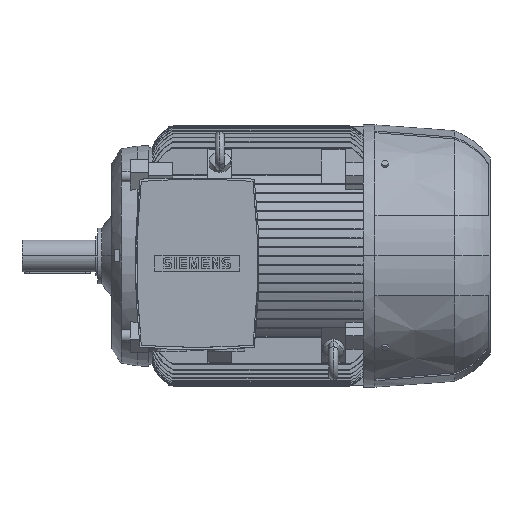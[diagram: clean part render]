
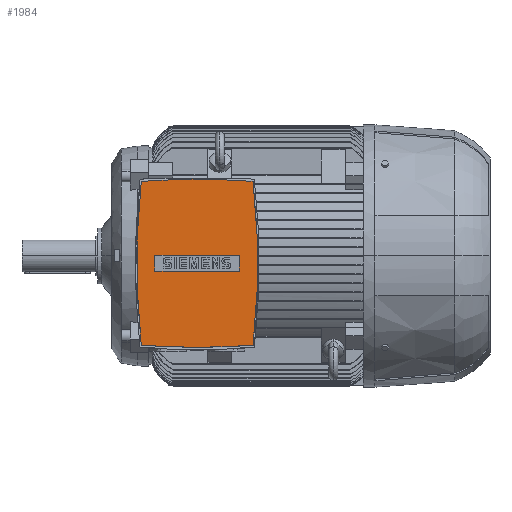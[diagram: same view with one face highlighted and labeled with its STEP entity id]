
A CAD part, top view. The second image highlights one B-rep face of the part: STEP entity #1984.
In plain terms, the highlighted planar face has unit normal (0, 0, 1).
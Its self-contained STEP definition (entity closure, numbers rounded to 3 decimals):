
#1984=ADVANCED_FACE('',(#5178,#5179),#5180,.T.);
#5178=FACE_BOUND('',#9624,.T.);
#5179=FACE_OUTER_BOUND('',#9625,.T.);
#5180=PLANE('',#9626);
#9624=EDGE_LOOP('',(#15714,#15715,#15716,#15717));
#9625=EDGE_LOOP('',(#15718,#15719,#15720,#15721,#15722,#15723));
#9626=AXIS2_PLACEMENT_3D('',#15724,#15725,#15726);
#15714=ORIENTED_EDGE('',*,*,#28271,.T.);
#15715=ORIENTED_EDGE('',*,*,#28268,.T.);
#15716=ORIENTED_EDGE('',*,*,#28265,.T.);
#15717=ORIENTED_EDGE('',*,*,#28262,.T.);
#15718=ORIENTED_EDGE('',*,*,#28627,.T.);
#15719=ORIENTED_EDGE('',*,*,#28628,.T.);
#15720=ORIENTED_EDGE('',*,*,#27789,.T.);
#15721=ORIENTED_EDGE('',*,*,#28629,.T.);
#15722=ORIENTED_EDGE('',*,*,#27782,.T.);
#15723=ORIENTED_EDGE('',*,*,#28630,.T.);
#15724=CARTESIAN_POINT('',(92.0,-14.5,410.0));
#15725=DIRECTION('',(0.0,0.0,1.0));
#15726=DIRECTION('',(0.0,-1.0,0.0));
#27782=EDGE_CURVE('',#33744,#33741,#33745,.T.);
#27789=EDGE_CURVE('',#33751,#33755,#33757,.T.);
#28262=EDGE_CURVE('',#34495,#34493,#34496,.T.);
#28265=EDGE_CURVE('',#34499,#34495,#34500,.T.);
#28268=EDGE_CURVE('',#34503,#34499,#34504,.T.);
#28271=EDGE_CURVE('',#34493,#34503,#34507,.T.);
#28627=EDGE_CURVE('',#35071,#35072,#35073,.T.);
#28628=EDGE_CURVE('',#35072,#33751,#35074,.T.);
#28629=EDGE_CURVE('',#33755,#33744,#35075,.T.);
#28630=EDGE_CURVE('',#33741,#35071,#35076,.T.);
#33741=VERTEX_POINT('',#44101);
#33744=VERTEX_POINT('',#44105);
#33745=CIRCLE('',#44106,1439.94);
#33751=VERTEX_POINT('',#44113);
#33755=VERTEX_POINT('',#44118);
#33757=CIRCLE('',#44121,1439.94);
#34493=VERTEX_POINT('',#45606);
#34495=VERTEX_POINT('',#45609);
#34496=LINE('',#45610,#45611);
#34499=VERTEX_POINT('',#45615);
#34500=LINE('',#45616,#45617);
#34503=VERTEX_POINT('',#45621);
#34504=LINE('',#45622,#45623);
#34507=LINE('',#45627,#45628);
#35071=VERTEX_POINT('',#46672);
#35072=VERTEX_POINT('',#46673);
#35073=CIRCLE('',#46674,1403.6);
#35074=CIRCLE('',#46675,1439.94);
#35075=CIRCLE('',#46676,1403.6);
#35076=CIRCLE('',#46677,1439.94);
#44101=CARTESIAN_POINT('',(92.,144.5,410.0));
#44105=CARTESIAN_POINT('',(197.904,140.6,410.0));
#44106=AXIS2_PLACEMENT_3D('',#70018,#70019,#70020);
#44113=CARTESIAN_POINT('',(92.,-173.5,410.0));
#44118=CARTESIAN_POINT('',(197.904,-169.6,410.0));
#44121=AXIS2_PLACEMENT_3D('',#70030,#70031,#70032);
#45606=CARTESIAN_POINT('',(172.0,-29.5,410.0));
#45609=CARTESIAN_POINT('',(172.0,0.5,410.0));
#45610=CARTESIAN_POINT('',(172.0,-14.5,410.0));
#45611=VECTOR('',#70503,1.0);
#45615=CARTESIAN_POINT('',(12.0,0.5,410.0));
#45616=CARTESIAN_POINT('',(92.0,0.5,410.0));
#45617=VECTOR('',#70505,1.0);
#45621=CARTESIAN_POINT('',(12.0,-29.5,410.0));
#45622=CARTESIAN_POINT('',(12.0,-14.5,410.0));
#45623=VECTOR('',#70507,1.0);
#45627=CARTESIAN_POINT('',(92.0,-29.5,410.0));
#45628=VECTOR('',#70509,1.0);
#46672=CARTESIAN_POINT('',(-13.904,140.6,410.0));
#46673=CARTESIAN_POINT('',(-13.904,-169.6,410.0));
#46674=AXIS2_PLACEMENT_3D('',#70913,#70914,#70915);
#46675=AXIS2_PLACEMENT_3D('',#70916,#70917,#70918);
#46676=AXIS2_PLACEMENT_3D('',#70919,#70920,#70921);
#46677=AXIS2_PLACEMENT_3D('',#70922,#70923,#70924);
#70018=CARTESIAN_POINT('',(92.0,-1295.44,410.0));
#70019=DIRECTION('',(0.0,-0.0,1.0));
#70020=DIRECTION('',(0.0,1.0,0.0));
#70030=CARTESIAN_POINT('',(92.0,1266.44,410.0));
#70031=DIRECTION('',(0.0,-0.0,1.0));
#70032=DIRECTION('',(0.0,1.0,0.0));
#70503=DIRECTION('',(0.0,-1.0,0.0));
#70505=DIRECTION('',(1.0,0.0,-0.0));
#70507=DIRECTION('',(0.0,1.0,0.0));
#70509=DIRECTION('',(-1.0,0.0,0.0));
#70913=CARTESIAN_POINT('',(1381.1,-14.5,410.0));
#70914=DIRECTION('',(0.0,-0.0,1.0));
#70915=DIRECTION('',(0.0,1.0,0.0));
#70916=CARTESIAN_POINT('',(92.0,1266.44,410.0));
#70917=DIRECTION('',(0.0,-0.0,1.0));
#70918=DIRECTION('',(0.0,1.0,0.0));
#70919=CARTESIAN_POINT('',(-1197.1,-14.5,410.0));
#70920=DIRECTION('',(0.0,-0.0,1.0));
#70921=DIRECTION('',(0.0,1.0,0.0));
#70922=CARTESIAN_POINT('',(92.0,-1295.44,410.0));
#70923=DIRECTION('',(0.0,-0.0,1.0));
#70924=DIRECTION('',(0.0,1.0,0.0));
